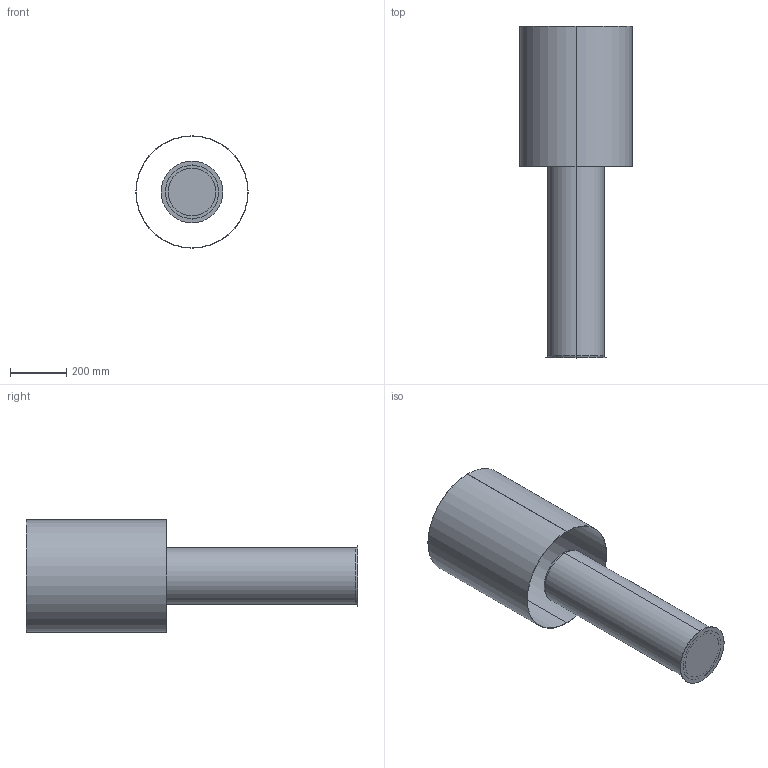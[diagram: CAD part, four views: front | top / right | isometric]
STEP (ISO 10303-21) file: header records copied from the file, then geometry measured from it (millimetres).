
FILE_DESCRIPTION (( 'STEP AP214' ), '1' );
FILE_NAME ('AMEC_NAC139.STEP', '2025-01-17T15:27:58', ( '' ), ( '' ), 'SwSTEP 2.0', 'SolidWorks 2018', '' );
FILE_SCHEMA (( 'AUTOMOTIVE_DESIGN' ));
Length unit declared in the file: millimetre
Products named in the file (1): AMEC_NAC139
Bounding box: 400 x 1182 x 400 mm (x, y, z)
Volume: 7134377.2 mm3; surface area: 2200003 mm2
Topology: 4 solids, 4 shells, 27 faces, 50 edges, 32 vertices
Faces by surface type: cylinder 14, plane 9, torus 4
Entity records: 757 total; most frequent: DIRECTION 142, CARTESIAN_POINT 110, ORIENTED_EDGE 100, AXIS2_PLACEMENT_3D 64, EDGE_CURVE 50, CIRCLE 36, VERTEX_POINT 32, EDGE_LOOP 32
